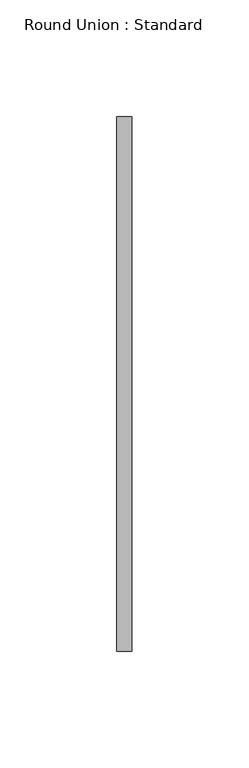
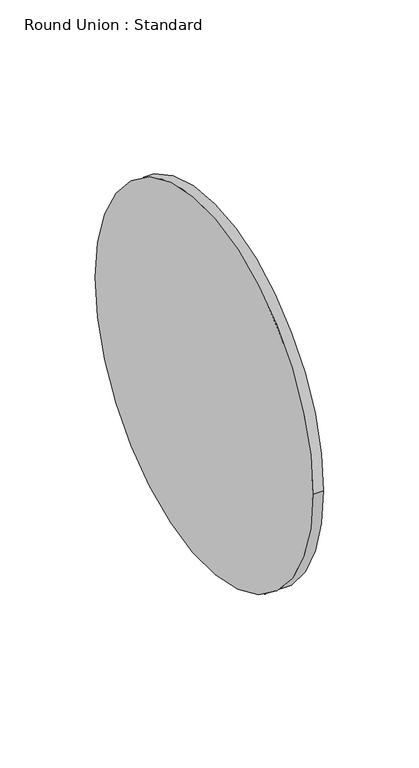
"""IFC4 building model written with IfcOpenShell, lengths in millimetres: duct fitting geometry, Round Union : Standard."""

from ifc_helpers import new_model, si_unit, point, frame, origin, origin_2d, place, context, project, spatial, circle_curve, trimmed, segment, composite_curve, outline, extrude, source, transform, mapped, element, save


def round_union_standard_838016a0(model_context):
    return source(origin(), model_context, "Body", "SweptSolid", [
        extrude(outline(composite_curve([segment(trimmed(circle_curve(origin_2d(), 114.3), [point((-114.3, 0.0))], [point((114.3, 0.0))], False, "CARTESIAN"), True, "CONTINUOUS"), segment(trimmed(circle_curve(origin_2d(), 114.3), [point((114.3, 0.0))], [point((-114.3, 0.0))], False, "CARTESIAN"), True, "CONTINUOUS")], self_intersect=False)), frame((0.0, 0.0, 0.0), z_axis=(1.0, 0.0, 0.0), x_axis=(0.0, 1.0, 0.0)), (0.0, 0.0, 1.0), 6.35),
    ])


if __name__ == "__main__":
    model = new_model("IFC4")
    model_context = context("Model", 3, world=origin())
    ifc_project = project(units=[si_unit("LENGTHUNIT", "METRE", prefix="MILLI")], contexts=[model_context])
    site = spatial("IfcSite", under=ifc_project)
    building = spatial("IfcBuilding", under=site)
    placement = place(None, origin())
    round_union_standard_shape = round_union_standard_838016a0(model_context)
    element("IfcDuctFitting", 1, ObjectType="Round Union : Standard", at=placement, inside=building, context=model_context, shape_type="MappedRepresentation", body=[
        mapped(round_union_standard_shape, transform((0.0, 0.0, 0.0), x_axis=(1.0, 0.0, 0.0), y_axis=(0.0, 1.0, 0.0), z_axis=(0.0, 0.0, 1.0))),
    ])
    save(model, "model.ifc")
